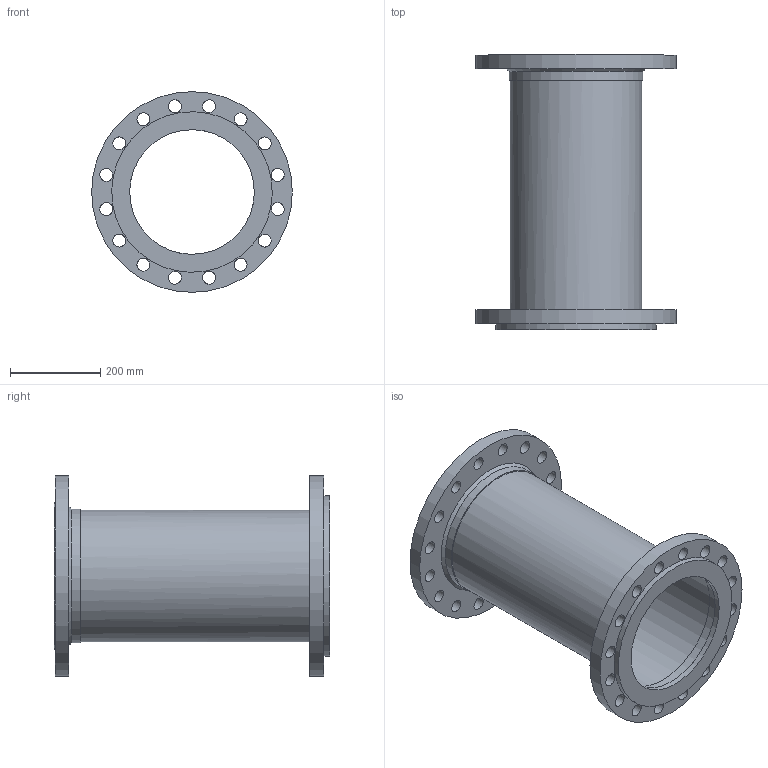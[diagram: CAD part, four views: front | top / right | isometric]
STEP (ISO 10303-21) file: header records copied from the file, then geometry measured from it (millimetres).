
FILE_DESCRIPTION(/* description */ (''),/* implementation_level */ '2;1');
FILE_NAME(/* name */ 'C:\001_Work\Designs\FFL2B-300\FFL2B-300-10x24.stp',/* time_stamp */ '2016-06-14T12:16:57-04:00',/* author */ ('rramoutar'),/* organization */ ('Mason Industries Inc.'),/* preprocessor_version */ 'ST-DEVELOPER v15.6',/* originating_system */ 'Autodesk Inventor 2015',/* authorisation */ '');
FILE_SCHEMA (('CONFIG_CONTROL_DESIGN'));
Length unit declared in the file: inch
Products named in the file (1): FFL2B-300-10x24
Bounding box: 444.5 x 609.6 x 444.5 mm (x, y, z)
Volume: 5825629.2 mm3; surface area: 1637052.7 mm2
Topology: 1 solids, 1 shells, 57 faces, 171 edges, 125 vertices
Faces by surface type: cylinder 43, plane 11, cone 3
Full cylindrical faces by diameter (mm): 28.575 x32, 276.225 x2, 291.084 x1, 292.1 x1, 296.863 x2, 301.625 x1, 323.85 x1, 355.6 x1, 444.5 x2
Entity records: 1692 total; most frequent: DIRECTION 294, CARTESIAN_POINT 236, EDGE_LOOP 178, ORIENTED_EDGE 178, AXIS2_PLACEMENT_3D 147, FACE_BOUND 121, CIRCLE 89, VERTEX_POINT 89
